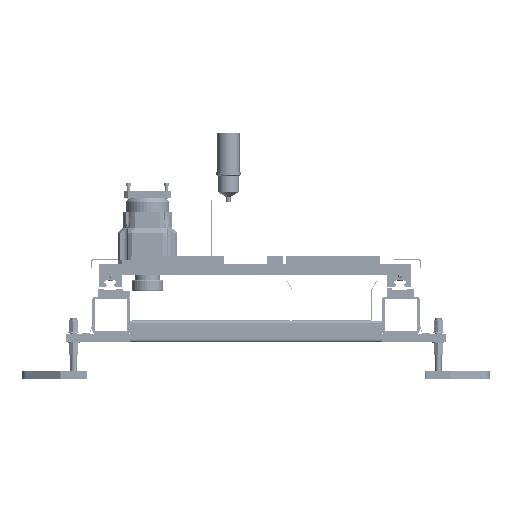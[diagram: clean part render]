
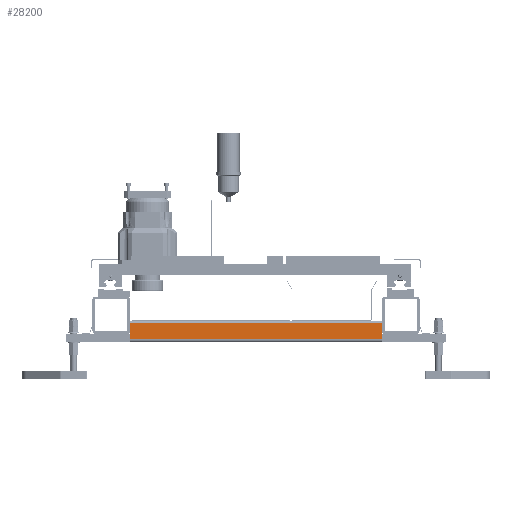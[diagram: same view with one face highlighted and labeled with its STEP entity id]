
A CAD part, front view. The second image highlights one B-rep face of the part: STEP entity #28200.
In plain terms, the highlighted planar face has unit normal (0, -1, 0).
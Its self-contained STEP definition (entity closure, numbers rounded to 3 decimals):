
#2201 = VERTEX_POINT ( 'NONE', #13207 ) ;
#4423 = CARTESIAN_POINT ( 'NONE',  ( 470., 133.5, -30. ) ) ;
#4424 = FACE_OUTER_BOUND ( 'NONE', #107047, .T. ) ;
#6297 = DIRECTION ( 'NONE',  ( -1., 0., 0. ) ) ;
#11286 = PLANE ( 'NONE',  #52165 ) ;
#13207 = CARTESIAN_POINT ( 'NONE',  ( 470., 133.5, -90. ) ) ;
#19047 = CARTESIAN_POINT ( 'NONE',  ( -470., 133.5, -30. ) ) ;
#20044 = VECTOR ( 'NONE', #116936, 1000. ) ;
#28200 = ADVANCED_FACE ( 'NONE', ( #4424 ), #11286, .F. ) ;
#28443 = CARTESIAN_POINT ( 'NONE',  ( -470., 133.5, -90. ) ) ;
#30093 = VERTEX_POINT ( 'NONE', #33910 ) ;
#33910 = CARTESIAN_POINT ( 'NONE',  ( -470., 133.5, -30. ) ) ;
#34769 = ORIENTED_EDGE ( 'NONE', *, *, #80460, .T. ) ;
#38187 = ORIENTED_EDGE ( 'NONE', *, *, #79065, .T. ) ;
#38866 = CARTESIAN_POINT ( 'NONE',  ( 470., 133.5, -30. ) ) ;
#39147 = VERTEX_POINT ( 'NONE', #28443 ) ;
#40166 = ORIENTED_EDGE ( 'NONE', *, *, #59845, .F. ) ;
#46028 = LINE ( 'NONE', #19047, #20044 ) ;
#52165 = AXIS2_PLACEMENT_3D ( 'NONE', #59476, #107955, #89240 ) ;
#53759 = CARTESIAN_POINT ( 'NONE',  ( 470., 133.5, -30. ) ) ;
#54042 = VECTOR ( 'NONE', #91743, 1000. ) ;
#54044 = LINE ( 'NONE', #94009, #61688 ) ;
#57234 = EDGE_CURVE ( 'NONE', #78798, #2201, #75212, .T. ) ;
#59476 = CARTESIAN_POINT ( 'NONE',  ( 470., 133.5, -30. ) ) ;
#59845 = EDGE_CURVE ( 'NONE', #2201, #39147, #54044, .T. ) ;
#61688 = VECTOR ( 'NONE', #6297, 1000. ) ;
#75212 = LINE ( 'NONE', #4423, #54042 ) ;
#78798 = VERTEX_POINT ( 'NONE', #38866 ) ;
#79065 = EDGE_CURVE ( 'NONE', #78798, #30093, #111479, .T. ) ;
#80460 = EDGE_CURVE ( 'NONE', #30093, #39147, #46028, .T. ) ;
#85685 = VECTOR ( 'NONE', #101739, 1000. ) ;
#89240 = DIRECTION ( 'NONE',  ( 0., 0., 1. ) ) ;
#91743 = DIRECTION ( 'NONE',  ( 0., 0., -1. ) ) ;
#94009 = CARTESIAN_POINT ( 'NONE',  ( 470., 133.5, -90. ) ) ;
#101739 = DIRECTION ( 'NONE',  ( -1., 0., 0. ) ) ;
#107047 = EDGE_LOOP ( 'NONE', ( #34769, #40166, #107601, #38187 ) ) ;
#107601 = ORIENTED_EDGE ( 'NONE', *, *, #57234, .F. ) ;
#107955 = DIRECTION ( 'NONE',  ( 0., 1., 0. ) ) ;
#111479 = LINE ( 'NONE', #53759, #85685 ) ;
#116936 = DIRECTION ( 'NONE',  ( 0., 0., -1. ) ) ;
